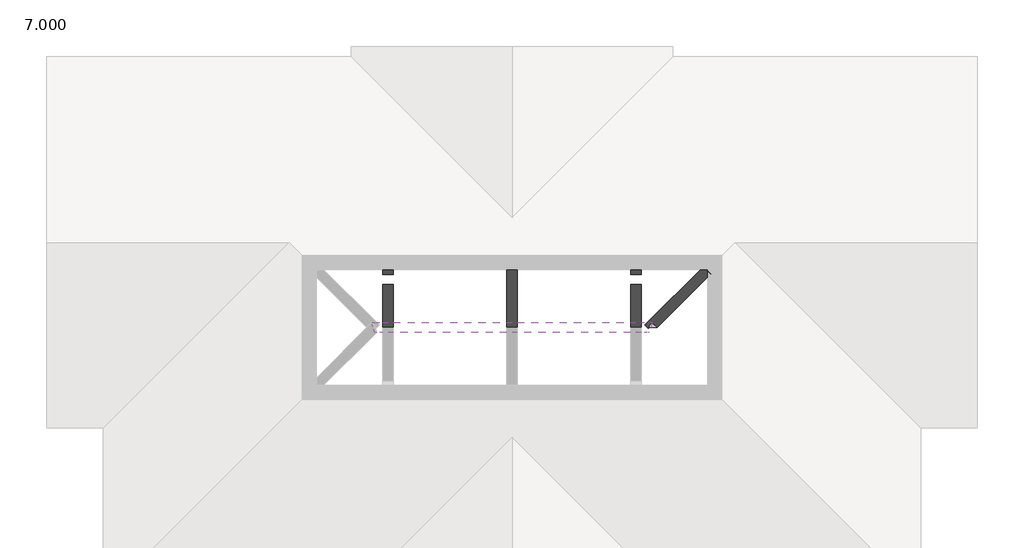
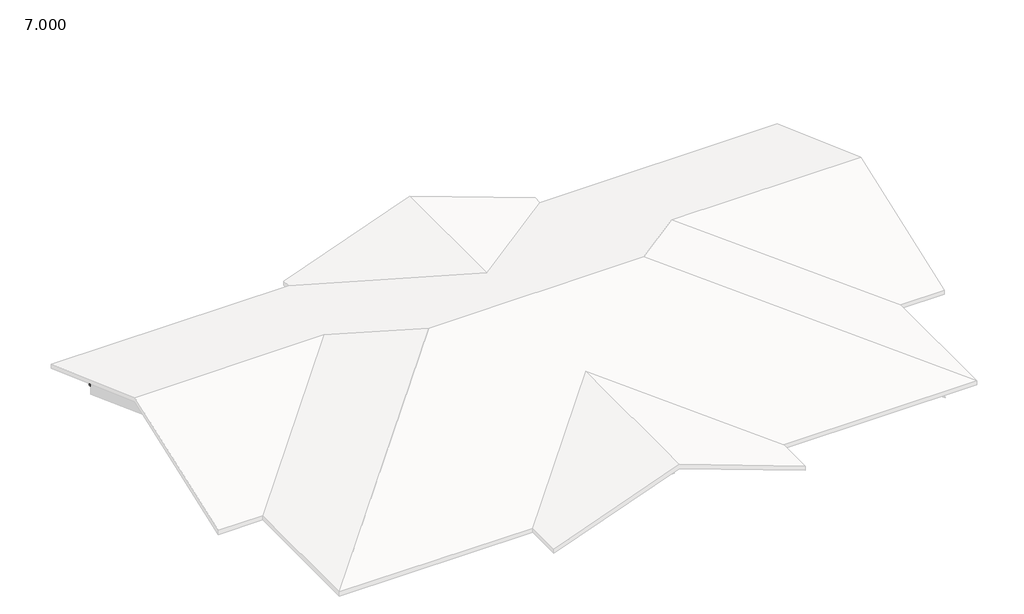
# One storey, part 2 of 2: 17 beams.
"""IFC4 building model written with IfcOpenShell, lengths in millimetres."""

from ifc_helpers import new_model, si_unit, frame, origin, place, context, project, spatial, polyline, outline, extrude, faceted_brep, element, save

model = new_model("IFC4")

# Units and contexts
model_context = context("Model", 3, world=origin())
ifc_project = project(units=[si_unit("LENGTHUNIT", "METRE", prefix="MILLI")], contexts=[model_context])

# Site, building, storey
site = spatial("IfcSite", under=ifc_project)
building = spatial("IfcBuilding", under=site)
storey = spatial("IfcBuildingStorey", under=building, Name="7.000", Elevation=7000.0)

# Beams
placement = place(None, origin())
element("IfcBeam", 1, ObjectType="混凝土 - 矩形梁 : 200 x 400mm", at=placement, inside=storey, context=model_context, shape_type="Brep", body=[
    faceted_brep([(3981.195871, 2600.2421091, 8004.2928434), (3981.195871, 2500.2421091, 7970.7844726), (3981.195871, 80.2421091, 7159.8818999), (4181.195871, 80.2421091, 7159.8818999), (4181.195871, 2600.2421091, 8004.2928434), (4181.195871, 280.2421091, 7159.8818999), (4181.195871, 280.2421091, 6805.0396903), (4181.195871, 2590.992689, 7579.3345623), (4181.195871, 2727.3305426, 7625.0191558), (3981.195871, 2727.3305426, 7625.0191558), (3981.195871, 280.2421091, 6805.0396903), (3981.195871, 2590.992689, 7579.3345623), (3981.195871, 280.2421091, 7159.8818999)], [[[0, 1, 2, 3, 4]], [[4, 3, 5, 6, 7, 8]], [[9, 8, 7, 6, 10, 11]], [[2, 1, 0, 9, 11, 10, 12]], [[5, 12, 10, 6]], [[12, 5, 3, 2]], [[0, 4, 8, 9]]]),
])
element("IfcBeam", 2, ObjectType="混凝土 - 矩形梁 : 200 x 400mm", at=placement, inside=storey, context=model_context, shape_type="Brep", body=[
    faceted_brep([(3981.195871, 4880.2421091, 7128.2194558), (3981.195871, 2700.2421091, 7965.868572), (3981.195871, 2600.2421091, 8004.2928434), (4181.195871, 2600.2421091, 8004.2928434), (4181.195871, 4880.2421091, 7128.2194558), (4181.195871, 2727.3305426, 7625.0191558), (4181.195871, 2590.992689, 7579.3345623), (4181.195871, 4880.2421091, 6699.7071524), (3981.195871, 4880.2421091, 6699.7071524), (3981.195871, 2590.992689, 7579.3345623), (3981.195871, 2727.3305426, 7625.0191558)], [[[0, 1, 2, 3, 4]], [[4, 3, 5, 6, 7]], [[8, 7, 6, 9]], [[2, 1, 0, 8, 9, 10]], [[0, 4, 7, 8]], [[5, 10, 9, 6]], [[10, 5, 3, 2]]]),
])
element("IfcBeam", 3, ObjectType="混凝土 - 矩形梁 : 200 x 400mm", at=placement, inside=storey, context=model_context, shape_type="Brep", body=[
    faceted_brep([(-6918.804129, 5410.2955396, 7000.0), (-7118.804129, 5410.2955396, 7000.0), (-7118.804129, 2700.2421091, 7975.1480164), (-7118.804129, 2600.5437444, 8011.0220923), (-7118.804129, 1980.2421091, 8234.2228242), (-6918.804129, 1980.2421091, 8234.2228242), (-6918.804129, 5410.2955396, 6999.7349968), (-6918.804129, 1980.2421091, 7809.1158093), (-6918.804129, 5238.8207529, 6636.5940927), (-6918.804129, 5400.2421091, 6578.510472), (-6918.804129, 5400.2421091, 6988.8158898), (-6918.804129, 5400.2421091, 6999.7349968), (-7118.804129, 5400.2421091, 6578.510472), (-7080.2254852, 5400.2421091, 6578.510472), (-7118.804129, 1980.2421091, 7809.1158093), (-7118.804129, 2500.2421091, 7622.0062259), (-7118.804129, 2530.7689901, 7611.0218567), (-7118.804129, 5410.2955396, 6999.7349968), (-7118.804129, 5400.2421091, 6999.7349968)], [[[0, 1, 2, 3, 4, 5]], [[6, 0, 5, 7, 8, 9, 10, 11]], [[12, 13, 9, 8, 7, 14, 15, 16]], [[1, 17, 18, 12, 16, 15, 14, 4, 3, 2]], [[1, 0, 6, 17]], [[18, 11, 10, 9, 13, 12]], [[11, 18, 17, 6]], [[5, 4, 14, 7]]]),
    faceted_brep([(-7118.804129, 1780.2421091, 8302.7484355), (-6918.804129, 1780.2421091, 8302.7484355), (-6918.804129, 1780.2421091, 7881.0810337), (-7118.804129, 1780.2421091, 7881.0810337), (-7118.804129, 1789.8012071, 8302.7484355), (-6918.804129, 1789.8012071, 8302.7484355), (-7118.804129, 1050.2421091, 8568.8611177), (-6918.804129, 1050.2421091, 8568.8611177), (-6918.804129, 1050.2421091, 8204.8437299), (-6918.804129, 950.2421091, 8204.8437299), (-6918.804129, 950.2421091, 8179.736715), (-7118.804129, 950.2421091, 8179.736715), (-7118.804129, 950.2421091, 8204.8437299), (-7118.804129, 1050.2421091, 8204.8437299)], [[[0, 1, 2, 3]], [[1, 0, 4, 5]], [[5, 4, 6, 7]], [[2, 1, 5, 7, 8, 9, 10]], [[3, 2, 10, 11]], [[0, 3, 11, 12, 13, 6, 4]], [[11, 10, 9, 12]], [[8, 13, 12, 9]], [[13, 8, 7, 6]]]),
])
element("IfcBeam", 4, ObjectType="混凝土 - 矩形梁 : 200 x 400mm", at=placement, inside=storey, context=model_context, shape_type="Brep", body=[
    faceted_brep([(-2318.804129, 1980.2421091, 8237.2367793), (-2118.804129, 1980.2421091, 8237.2367793), (-2118.804129, 5400.2421091, 6982.3415764), (-2283.2280695, 5400.2421091, 6982.3415764), (-2318.804129, 5400.2421091, 6982.3415764), (-2318.804129, 5365.2350924, 6995.1866458), (-2118.804129, 1980.2421091, 7811.1595155), (-2118.804129, 5400.2421091, 6556.2643127), (-2318.804129, 1980.2421091, 7811.1595155), (-2318.804129, 5238.8207529, 6615.4943962), (-2318.804129, 5294.7149887, 6594.9852124), (-2318.804129, 5400.2421091, 6556.2643127), (-2211.561654, 5400.2421091, 6556.2643127), (-2157.3827728, 5400.2421091, 6556.2643127), (-2318.804129, 5400.2421091, 6575.780847)], [[[0, 1, 2, 3, 4, 5]], [[1, 6, 7, 2]], [[6, 8, 9, 10, 11, 12, 13, 7]], [[8, 0, 5, 4, 14, 11, 10, 9]], [[1, 0, 8, 6]], [[4, 3, 2, 7, 13, 12, 11, 14]]]),
    faceted_brep([(-2318.804129, 1780.2421091, 8302.7484355), (-2118.804129, 1780.2421091, 8302.7484355), (-2118.804129, 1780.2421091, 7884.5451999), (-2318.804129, 1780.2421091, 7884.5451999), (-2318.804129, 1801.7014122, 8302.7484355), (-2118.804129, 1801.7014122, 8302.7484355), (-2318.804129, 1050.2421091, 8578.4802116), (-2118.804129, 1050.2421091, 8578.4802116), (-2118.804129, 1050.2421091, 8204.8437299), (-2118.804129, 950.2421091, 8204.8437299), (-2118.804129, 950.2421091, 8189.0957901), (-2318.804129, 950.2421091, 8189.0957901), (-2318.804129, 950.2421091, 8204.8437299), (-2318.804129, 1050.2421091, 8204.8437299)], [[[0, 1, 2, 3]], [[1, 0, 4, 5]], [[5, 4, 6, 7]], [[2, 1, 5, 7, 8, 9, 10]], [[3, 2, 10, 11]], [[0, 3, 11, 12, 13, 6, 4]], [[11, 10, 9, 12]], [[8, 13, 12, 9]], [[13, 8, 7, 6]]]),
    faceted_brep([(-2318.804129, 978.3928963, 8604.8437299), (-2118.804129, 978.3928963, 8604.8437299), (-2118.804129, 950.2421091, 8604.8437299), (-2318.804129, 950.2421091, 8604.8437299), (-2318.804129, 950.2421091, 8615.1730538), (-2118.804129, 950.2421091, 8615.1730538), (-2118.804129, 950.2421091, 8612.7067216), (-2318.804129, 950.2421091, 8612.7067216)], [[[0, 1, 2, 3]], [[4, 5, 1, 0]], [[1, 5, 6, 2]], [[4, 0, 3, 7]], [[5, 4, 7, 3, 2, 6]]]),
])
element("IfcBeam", 5, ObjectType="混凝土 - 矩形梁 : 200 x 400mm", at=placement, inside=storey, context=model_context, shape_type="Brep", body=[
    faceted_brep([(-1904.0314513, 1050.2421091, 8604.8437299), (-7333.6516851, 1050.2421091, 8604.8437299), (-7332.9197463, 1047.5478481, 8604.8437299), (-7313.0800313, 974.5180114, 8604.8437299), (-7279.3185088, 850.2421091, 8604.8437299), (-1958.7767365, 850.2421091, 8604.8437299), (-7277.7185491, 850.2421091, 8588.6626287), (-7247.3827728, 850.2421091, 8281.8634825), (-7239.767191, 850.2421091, 8204.8437299), (-7118.804129, 850.2421091, 8204.8437299), (-6918.804129, 850.2421091, 8204.8437299), (-4718.804129, 850.2421091, 8204.8437299), (-4518.804129, 850.2421091, 8204.8437299), (-2318.804129, 850.2421091, 8204.8437299), (-2118.804129, 850.2421091, 8204.8437299), (-1997.4295106, 850.2421091, 8204.8437299), (-7241.3941071, 856.2307747, 8204.8437299), (-7256.3042761, 911.1149909, 8204.8437299), (-7285.4928113, 1018.5577625, 8204.8437299), (-7294.1003673, 1050.2421091, 8204.8437299), (-7247.3827728, 1050.2421091, 8204.8437299), (-7118.804129, 1050.2421091, 8204.8437299), (-6918.804129, 1050.2421091, 8204.8437299), (-4718.804129, 1050.2421091, 8204.8437299), (-4518.804129, 1050.2421091, 8204.8437299), (-2318.804129, 1050.2421091, 8204.8437299), (-2118.804129, 1050.2421091, 8204.8437299), (-1990.2254852, 1050.2421091, 8204.8437299), (-1942.6842255, 1050.2421091, 8204.8437299), (-1951.8559434, 1016.7352314, 8204.8437299), (-1980.882394, 910.693403, 8204.8437299), (-1906.5333644, 1050.2421091, 8578.9525681), (-1907.2795101, 1050.2421091, 8571.2310453), (-1942.274128, 1050.2421091, 8209.0876424), (-7294.5082796, 1050.2421091, 8208.9691284), (-7330.2254852, 1050.2421091, 8570.1930533), (-7331.0913156, 1050.2421091, 8578.9495796)], [[[0, 1, 2, 3, 4, 5]], [[5, 4, 6, 7, 8, 9, 10, 11, 12, 13, 14, 15]], [[15, 14, 13, 12, 11, 10, 9, 8, 16, 17, 18, 19, 20, 21, 22, 23, 24, 25, 26, 27, 28, 29, 30]], [[1, 0, 31, 32, 33, 28, 27, 26, 25, 24, 23, 22, 21, 20, 19, 34, 35, 36]], [[4, 3, 2, 1, 36, 35, 34, 19, 18, 17, 16, 8, 7, 6]], [[0, 5, 15, 30, 29, 28, 33, 32, 31]]]),
])
element("IfcBeam", 6, ObjectType="混凝土 - 矩形梁 : 200 x 400mm", at=placement, inside=storey, context=model_context, shape_type="Brep", body=[
    faceted_brep([(-7018.804129, 2700.2421091, 8011.1306286), (-13318.8441952, 2700.2421091, 8004.2927999), (-13318.804129, 2600.2421091, 8004.2928434), (-13318.8404977, 2500.2421091, 8004.2928039), (-8980.2254852, 2500.2421091, 8009.0017749), (-8697.3827728, 2500.2421091, 8009.3087619), (-7118.804129, 2500.2421091, 8011.0220923), (-7118.804129, 2600.5437444, 8011.0220923), (-7018.804129, 2600.2421091, 8011.1306286), (-13318.804129, 2500.2421091, 7970.7844726), (-13218.804129, 2500.2421091, 7970.7844726), (-13218.804129, 2500.2421091, 7604.401144), (-9180.2254852, 2500.2421091, 7608.7844668), (-8980.2254852, 2500.2421091, 7609.0015393), (-8941.0695596, 2500.2421091, 7609.0440377), (-8897.3827728, 2500.2421091, 7609.0914537), (-7018.804129, 2500.2421091, 7611.130393), (-7018.804129, 2500.2421091, 7622.0062259), (-7118.804129, 2500.2421091, 7622.0062259), (-13218.804129, 2700.2421091, 7604.401144), (-7118.804129, 2700.2421091, 7611.0218567), (-7118.804129, 2530.7689901, 7611.0218567), (-7018.804129, 2530.4673548, 7611.130393), (-7018.804129, 2700.2421091, 7975.1480164), (-7118.804129, 2700.2421091, 7975.1480164), (-13218.804129, 2700.2421091, 7967.3777857), (-13318.804129, 2700.2421091, 7967.3777857), (-13218.804129, 2600.2421091, 8004.2928434)], [[[0, 1, 2, 3, 4, 5, 6, 7, 8]], [[3, 9, 10, 11, 12, 13, 14, 15, 16, 17, 18, 6, 5, 4]], [[16, 15, 14, 13, 12, 11, 19, 20, 21, 22]], [[1, 0, 23, 24, 20, 19, 25, 26]], [[3, 2, 9]], [[17, 16, 22]], [[27, 10, 9, 2]], [[10, 27, 25, 19, 11]], [[2, 1, 26]], [[25, 27, 2, 26]], [[7, 24, 23, 8]], [[21, 18, 17, 22]], [[24, 7, 6, 18, 21, 20]], [[0, 8, 23]]]),
])
element("IfcBeam", 7, ObjectType="混凝土 - 矩形梁 : 200 x 400mm", at=placement, inside=storey, context=model_context, shape_type="SweptSolid", body=[
    extrude(outline(polyline([(-7138.804129, 5600.2421091), (-7138.804129, 5400.2421091), (-13038.804129, 5400.2421091), (-13038.804129, 5600.2421091), (-7138.804129, 5600.2421091)])), frame((0.0, 0.0, 6400.0), z_axis=(0.0, 0.0, 1.0), x_axis=(1.0, 0.0, 0.0)), (0.0, 0.0, 1.0), 400.0),
])
element("IfcBeam", 8, ObjectType="混凝土 - 矩形梁 : 200 x 400mm", at=placement, inside=storey, context=model_context, shape_type="SweptSolid", body=[
    extrude(outline(polyline([(3801.195871, 5600.2421091), (3801.195871, 5400.2421091), (-2098.804129, 5400.2421091), (-2098.804129, 5600.2421091), (3801.195871, 5600.2421091)])), frame((0.0, 0.0, 6400.0), z_axis=(0.0, 0.0, 1.0), x_axis=(1.0, 0.0, 0.0)), (0.0, 0.0, 1.0), 400.0),
])
element("IfcBeam", 9, ObjectType="混凝土 - 矩形梁 : 200 x 400mm", at=placement, inside=storey, context=model_context, shape_type="Brep", body=[
    faceted_brep([(3961.195871, -19.7578909, 6800.0), (3961.195871, 180.2421091, 6800.0), (2481.195871, 180.2421091, 6800.0), (2481.195871, -19.7578909, 6800.0), (2681.195871, -19.7578909, 6800.0), (3961.195871, 180.2421091, 6400.0), (2481.195871, 180.2421091, 6400.0), (3961.195871, -19.7578909, 6400.0), (2681.195871, -19.7578909, 6400.0), (2481.195871, -19.7578909, 6400.0)], [[[0, 1, 2, 3, 4]], [[1, 5, 6, 2]], [[5, 7, 8, 9, 6]], [[7, 0, 4, 3, 9, 8]], [[3, 2, 6, 9]], [[0, 7, 5, 1]]]),
])
element("IfcBeam", 10, ObjectType="混凝土 - 矩形梁 : 200 x 400mm", at=placement, inside=storey, context=model_context, shape_type="Brep", body=[
    faceted_brep([(-2338.804129, 6240.2421091, 6999.7349968), (-4618.804129, 6240.2421091, 7829.5871309), (-4618.804129, 6040.2421091, 7829.5871309), (-4518.804129, 6040.2421091, 7793.1901075), (-2338.804129, 6040.2421091, 6999.7349968), (-4481.9960717, 6040.2421091, 7453.7100826), (-4618.804129, 6040.2421091, 7403.9160219), (-2338.804129, 6040.2421091, 6574.0638878), (-2338.804129, 6240.2421091, 6574.0638878), (-4618.804129, 6240.2421091, 7403.9160219), (-4481.9960717, 6240.2421091, 7453.7100826)], [[[0, 1, 2, 3, 4]], [[4, 3, 2, 5, 6, 7]], [[8, 7, 6, 9]], [[1, 0, 8, 9, 10]], [[0, 4, 7, 8]], [[5, 10, 9, 6]], [[10, 5, 2, 1]]]),
])
element("IfcBeam", 11, ObjectType="混凝土 - 矩形梁 : 200 x 400mm", at=placement, inside=storey, context=model_context, shape_type="Brep", body=[
    faceted_brep([(-4618.804129, 6040.2421091, 7829.5871309), (-4618.804129, 6240.2421091, 7829.5871309), (-6898.804129, 6240.2421091, 6999.7349968), (-6898.804129, 6040.2421091, 6999.7349968), (-4718.804129, 6040.2421091, 7793.1901075), (-4481.9960717, 6240.2421091, 7453.7100826), (-4618.804129, 6240.2421091, 7403.9160219), (-6898.804129, 6240.2421091, 6574.0638878), (-4481.9960717, 6040.2421091, 7453.7100826), (-4618.804129, 6040.2421091, 7403.9160219), (-6898.804129, 6040.2421091, 6574.0638878)], [[[0, 1, 2, 3, 4]], [[1, 5, 6, 7, 2]], [[5, 8, 9, 10, 7, 6]], [[8, 0, 4, 3, 10, 9]], [[3, 2, 7, 10]], [[0, 8, 5, 1]]]),
])
element("IfcBeam", 12, ObjectType="混凝土 - 矩形梁 : 200 x 400mm", at=placement, inside=storey, context=model_context, shape_type="Brep", body=[
    faceted_brep([(-4518.804129, 3047.0923309, 7841.6526634), (-4585.5381018, 3113.5081363, 7817.4792872), (-4656.4177463, 3184.049848, 7791.8042039), (-4718.804129, 3246.1387912, 7769.2056767), (-4718.804129, 3180.2421091, 7793.1901075), (-4718.804129, 1050.2421091, 8568.4467065), (-4518.804129, 1050.2421091, 8568.4467065), (-4718.804129, 3109.3307339, 7393.3286283), (-4718.804129, 3038.8207529, 7418.9921627), (-4718.804129, 950.2421091, 8179.1726209), (-4718.804129, 950.2421091, 8204.8437299), (-4718.804129, 1050.2421091, 8204.8437299), (-4718.804129, 3121.6634653, 7427.2125295), (-4619.3053197, 3010.3063049, 7429.370573), (-4583.2259405, 2974.3989413, 7442.4397845), (-4546.1291214, 2937.4789886, 7455.8775483), (-4518.804129, 2910.2842736, 7465.7756151), (-4518.804129, 950.2421091, 8179.1726209), (-4518.804129, 1050.2421091, 8204.8437299), (-4518.804129, 950.2421091, 8204.8437299)], [[[0, 1, 2, 3, 4, 5, 6]], [[7, 8, 9, 10, 11, 5, 4, 3, 12]], [[9, 8, 7, 13, 14, 15, 16, 17]], [[17, 16, 0, 6, 18, 19]], [[9, 17, 19, 10]], [[18, 11, 10, 19]], [[11, 18, 6, 5]], [[0, 16, 15, 14, 13, 7, 12, 3, 2, 1]]]),
])
element("IfcBeam", 13, ObjectType="混凝土 - 矩形梁 : 200 x 400mm", at=placement, inside=storey, context=model_context, shape_type="Brep", body=[
    faceted_brep([(-2338.804129, 5501.6634653, 6973.9984147), (-4518.804129, 3321.6634653, 7767.4535254), (-4618.804129, 3221.6634653, 7803.8505488), (-4652.2720747, 3188.1955197, 7816.0318849), (-4618.804129, 3150.7388363, 7816.7577757), (-4585.5381018, 3113.5081363, 7817.4792872), (-4518.804129, 3038.8207529, 7818.9266896), (-2318.804129, 5238.8207529, 7018.1921742), (-2318.804129, 5365.2350924, 6995.1866458), (-2283.2280695, 5400.2421091, 6982.3415764), (-2338.804129, 5400.2421091, 6992.4555921), (-4585.3361834, 2972.2886985, 7430.1073342), (-2157.3827728, 5400.2421091, 6546.4045626), (-2157.3827728, 5400.2421091, 6556.2643127), (-2318.804129, 5238.8207529, 6615.4943962), (-4565.2246625, 2992.4002193, 7547.6408846), (-4583.2259405, 2974.3989413, 7442.4397845), (-4618.804129, 3009.7453819, 7429.3814434), (-4619.3053197, 3010.3063049, 7429.370573), (-4718.804129, 3121.6634653, 7427.2125295), (-4618.804129, 3221.6634653, 7390.8155061), (-2338.804129, 5501.6634653, 6560.963372), (-2338.804129, 5400.2421091, 6579.4205494), (-2318.804129, 5400.2421091, 6575.780847), (-2318.804129, 5294.7149887, 6594.9852124), (-2211.561654, 5400.2421091, 6556.2643127), (-4656.4177463, 3184.049848, 7791.8042039), (-4654.3564599, 3186.1111345, 7803.8505488), (-2318.804129, 5400.2421091, 6982.3415764)], [[[0, 1, 2, 3, 4, 5, 6, 7, 8, 9, 10]], [[11, 12, 13, 14, 7, 6, 15, 16]], [[12, 11, 17, 18, 19, 20, 21, 22, 23, 24, 25]], [[3, 2, 1, 0, 21, 20, 19, 26, 27]], [[5, 4, 3, 27, 26, 19, 18, 17, 11, 16, 15, 6]], [[22, 10, 9, 28, 23]], [[10, 22, 21, 0]], [[8, 28, 9]], [[24, 14, 13, 25]], [[28, 8, 7, 14, 24, 23]], [[13, 12, 25]]]),
])
element("IfcBeam", 14, ObjectType="混凝土 - 矩形梁 : 200 x 400mm", at=placement, inside=storey, context=model_context, shape_type="Brep", body=[
    faceted_brep([(-4518.804129, 3180.2421091, 7829.5871309), (-4518.804129, 6140.2421091, 7829.5871309), (-4618.804129, 6140.2421091, 7829.5871309), (-4718.804129, 6140.2421091, 7829.5871309), (-4718.804129, 3210.782838, 7829.5871309), (-4618.804129, 3080.2421091, 7829.5871309), (-4718.804129, 6140.2421091, 7793.1901075), (-4718.804129, 6040.2421091, 7793.1901075), (-4718.804129, 6040.2421091, 7429.5871309), (-4718.804129, 3321.6634653, 7429.5871309), (-4718.804129, 3321.6634653, 7767.4535254), (-4718.804129, 3210.782838, 7787.6321494), (-4518.804129, 6040.2421091, 7429.5871309), (-4518.804129, 3321.6634653, 7429.5871309), (-4618.804129, 3221.6634653, 7429.5871309), (-4518.804129, 3180.2421091, 7793.1901075), (-4518.804129, 3321.6634653, 7767.4535254), (-4518.804129, 6040.2421091, 7793.1901075), (-4518.804129, 6140.2421091, 7793.1901075), (-4585.5381018, 3113.5081363, 7817.4792872), (-4548.0934509, 3150.9527872, 7803.8505488), (-4618.804129, 6040.2421091, 7829.5871309), (-4618.804129, 3221.6634653, 7803.8505488), (-4652.2720747, 3188.1955197, 7816.0318849), (-4618.804129, 3150.7388363, 7816.7577757), (-4654.3564599, 3186.1111345, 7803.8505488), (-4552.4861649, 3155.3455012, 7827.9883138)], [[[0, 1, 2, 3, 4, 5]], [[4, 3, 6, 7, 8, 9, 10, 11]], [[8, 12, 13, 14, 9]], [[1, 0, 15, 16, 13, 12, 17, 18]], [[0, 5, 19, 20, 15]], [[21, 7, 6, 2]], [[7, 21, 17, 12, 8]], [[2, 1, 18]], [[3, 2, 6]], [[17, 21, 2, 18]], [[5, 4, 11]], [[16, 15, 20, 22]], [[13, 16, 22, 14]], [[23, 24, 25]], [[26, 5, 11, 10, 22, 25, 24, 22]], [[22, 10, 9, 14]], [[5, 26, 20, 19]], [[24, 23, 22]], [[22, 23, 25]], [[20, 26, 22]]]),
])
element("IfcBeam", 15, ObjectType="混凝土 - 矩形梁 : 200 x 400mm", at=placement, inside=storey, context=model_context, shape_type="Brep", body=[
    faceted_brep([(-2118.804129, 2500.2421091, 8004.2928434), (-2118.804129, 2700.2421091, 8004.2928434), (-2118.804129, 2700.2421091, 7604.2928434), (-2118.804129, 2500.2421091, 7604.2928434), (-540.2254852, 2500.2421091, 8004.2928434), (-257.3827728, 2500.2421091, 8004.2928434), (4081.195871, 2500.2421091, 8004.2928434), (4081.195871, 2600.2421091, 8004.2928434), (4081.195871, 2700.2421091, 8004.2928434), (4081.195871, 2700.2421091, 7965.868572), (3981.195871, 2700.2421091, 7965.868572), (3981.195871, 2700.2421091, 7604.2928434), (3981.195871, 2500.2421091, 7604.2928434), (-57.3958864, 2500.2421091, 7604.2928434), (-257.3827728, 2500.2421091, 7604.2928434), (-270.4311001, 2500.2421091, 7604.2928434), (-340.2277353, 2500.2421091, 7604.2928434), (3981.195871, 2500.2421091, 7970.7844726), (4081.195871, 2500.2421091, 7970.7844726), (3981.195871, 2600.2421091, 8004.2928434)], [[[0, 1, 2, 3]], [[1, 0, 4, 5, 6, 7, 8]], [[2, 1, 8, 9, 10, 11]], [[3, 2, 11, 12, 13, 14, 15, 16]], [[0, 3, 16, 15, 14, 13, 12, 17, 18, 6, 5, 4]], [[17, 19, 7, 18]], [[19, 17, 12, 11, 10]], [[7, 6, 18]], [[8, 7, 9]], [[19, 10, 9, 7]]]),
])
element("IfcBeam", 16, ObjectType="混凝土 - 矩形梁 : 200 x 400mm", at=placement, inside=storey, context=model_context, shape_type="Brep", body=[
    faceted_brep([(-440.2254852, 2600.2421091, 8030.0294254), (-1990.2254852, 1050.2421091, 8594.1832886), (-1906.5333644, 1050.2421091, 8578.9525681), (-1906.683834, 1049.6443299, 8579.0887383), (-1807.5072667, 950.1176152, 8579.1524599), (-228.0934509, 2529.531431, 8004.2928434), (-298.804129, 2600.2421091, 8004.2928434), (-1811.4759916, 946.1488902, 8167.5619149), (-298.8068451, 2458.8180368, 7616.9953713), (-163.2513513, 2594.3735306, 7567.6572065), (-157.3827728, 2600.2421091, 7565.5212186), (-157.3827728, 2600.2421091, 7567.657285), (-157.3827728, 2600.2421091, 7604.2928434), (-257.3827728, 2500.2421091, 7604.2928434), (-257.3827728, 2500.2421091, 7979.6356802), (-257.3827728, 2500.2421091, 8004.2928434), (-1807.5072667, 950.1176152, 8167.5643882), (-1980.882394, 910.693403, 8204.8437299), (-2055.3282927, 985.1393017, 8204.8437299), (-540.2254852, 2500.2421091, 7653.3914061), (-340.2277353, 2500.2421091, 7616.9947922), (-270.4311001, 2500.2421091, 7604.2928434), (-368.9744681, 2598.7854772, 7604.2928434), (-370.4311001, 2600.2421091, 7604.2928434), (-1971.3443139, 948.5858854, 8196.2120734), (-440.2254852, 2600.2421091, 8004.2928434), (-540.2254852, 2500.2421091, 8004.2928434), (-1990.2254852, 1050.2421091, 8204.8437299), (-367.5177243, 2600.2421091, 7604.2928434), (-1942.6842255, 1050.2421091, 8204.8437299), (-1951.8559434, 1016.7352314, 8204.8437299), (-1942.274128, 1050.2421091, 8209.0876424), (-1907.2795101, 1050.2421091, 8571.2310453), (-1934.4708785, 1077.5294778, 8212.5438046)], [[[0, 1, 2, 3, 4, 5, 6]], [[7, 8, 9, 10, 11, 12, 13, 14, 15, 5, 4, 16]], [[17, 18, 19, 20, 21, 22, 23, 10, 9, 8, 7, 24]], [[1, 0, 25, 26, 19, 18, 27]], [[12, 11, 10, 23, 28]], [[29, 27, 18, 17, 30]], [[27, 29, 31, 32, 2, 1]], [[29, 30, 31]], [[33, 31, 30, 24, 7, 16]], [[32, 33, 16, 4, 3]], [[24, 30, 17]], [[3, 2, 32]], [[31, 33, 32]], [[15, 26, 25, 6, 5]], [[21, 13, 12, 28, 23, 22]], [[26, 15, 14, 13, 21, 20, 19]], [[0, 6, 25]]]),
    faceted_brep([(-1948.804129, 950.2421091, 8604.8437299), (-2085.8327713, 954.6348231, 8628.9814948), (-2090.2254852, 950.2421091, 8604.8437299), (-2019.5148071, 1020.9527872, 8604.8437299)], [[[0, 1, 2]], [[3, 0, 2]], [[1, 0, 3]], [[1, 3, 2]]]),
    faceted_brep([(-1873.4005396, 884.2243423, 8603.1356499), (-1934.7926725, 937.9747214, 8604.5263353), (-1935.4625592, 937.0703952, 8600.1556409), (-1877.6404467, 879.9844351, 8579.8375514), (-1931.7701561, 949.9824472, 8601.7910549), (-1809.5061978, 948.1186841, 8579.8800113)], [[[0, 1, 2, 3]], [[4, 5, 3, 2]], [[1, 0, 5, 4]], [[0, 3, 5]], [[1, 4, 2]]]),
])
element("IfcBeam", 17, ObjectType="混凝土 - 矩形梁 : 200 x 400mm", at=placement, inside=storey, context=model_context, shape_type="Brep", body=[
    faceted_brep([(2581.195871, -421.4059338, 6975.3413348), (2581.195871, -138.5523565, 7024.6586652), (-57.3958864, 2500.2421091, 7944.769366), (-257.3827728, 2500.2421091, 7979.6356802), (-298.8068451, 2458.8180368, 7979.6351253), (-340.2277353, 2500.2421091, 7604.2928434), (-403.8716814, 2563.8909446, 7604.2928434), (2481.195871, -321.3982513, 6598.2328796), (2481.195871, -321.3982513, 6800.0), (2581.195871, -421.4059338, 6800.0), (-298.8068451, 2458.8180368, 7616.9953713), (-340.2277353, 2500.2421091, 7616.9947922), (-368.9744681, 2598.7854772, 7604.2928434), (-163.2513513, 2594.3735306, 7567.6572065), (-157.3854888, 2600.2393931, 7567.657285), (2481.195871, -38.544674, 6647.5502099), (2581.195871, -138.5523565, 6800.0), (2481.195871, -38.544674, 6800.0), (-229.1496131, 2672.0090307, 7592.6823532), (-227.1254054, 2669.9846675, 7604.2928434), (-157.3854888, 2600.2393931, 7604.2928434), (-57.3958864, 2500.2421091, 7604.2928434), (-297.769808, 2669.9846675, 7604.2928434), (-270.4311001, 2500.2421091, 7604.2928434), (-257.3827728, 2500.2421091, 7604.2928434), (-367.5177243, 2600.2421091, 7604.2928434)], [[[0, 1, 2, 3, 4]], [[5, 6, 7, 8, 9, 0, 4, 10, 11]], [[6, 12, 13, 14, 15, 7]], [[2, 1, 16, 17, 15, 14, 18, 19, 20, 21]], [[18, 22, 19]], [[1, 0, 9, 16]], [[6, 5, 23, 12]], [[5, 11, 23]], [[20, 14, 13, 10, 4, 3, 24]], [[10, 13, 12, 23, 11]], [[14, 20, 25]], [[22, 18, 14, 25]], [[19, 22, 25, 20]], [[21, 20, 24]], [[2, 21, 24, 3]], [[8, 17, 16, 9]], [[17, 8, 7, 15]]]),
])

save(model, "model.ifc")
